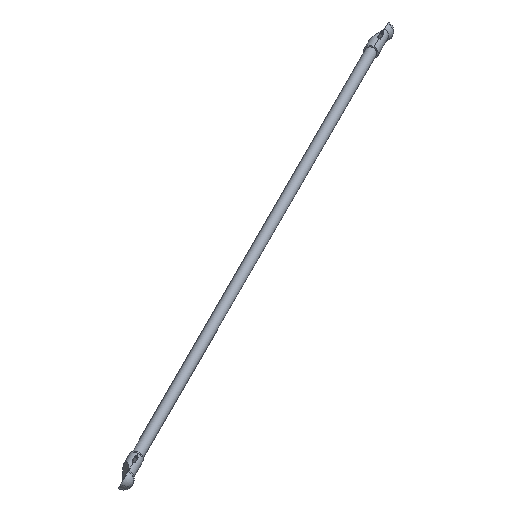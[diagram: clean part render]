
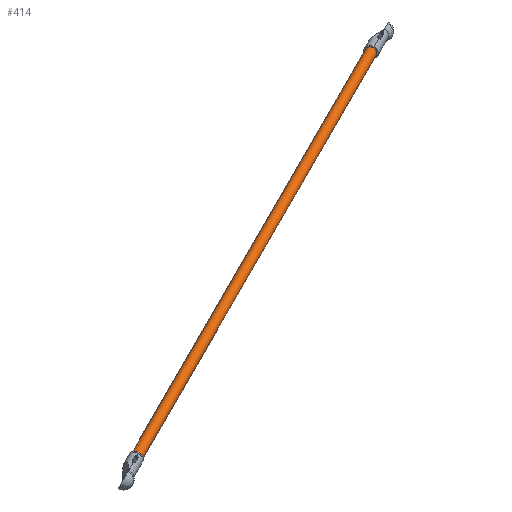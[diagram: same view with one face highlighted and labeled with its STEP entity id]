
A CAD part, top view. The second image highlights one B-rep face of the part: STEP entity #414.
In plain terms, the highlighted cylindrical face has radius 7 mm (diameter 14 mm), a partial arc.
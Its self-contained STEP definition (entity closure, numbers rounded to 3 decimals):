
#46 = CARTESIAN_POINT ( 'NONE',  ( 7.73, -88.621, -1167.889 ) ) ;
#55 = AXIS2_PLACEMENT_3D ( 'NONE', #46, #290, #463 ) ;
#60 = DIRECTION ( 'NONE',  ( 0.265, 0.46, -0.848 ) ) ;
#67 = CARTESIAN_POINT ( 'NONE',  ( 13.793, -92.121, -1167.89 ) ) ;
#99 = EDGE_CURVE ( 'NONE', #1536, #870, #743, .T. ) ;
#101 = VERTEX_POINT ( 'NONE', #263 ) ;
#197 = LINE ( 'NONE', #1016, #807 ) ;
#243 = ORIENTED_EDGE ( 'NONE', *, *, #589, .T. ) ;
#248 = DIRECTION ( 'NONE',  ( -0.265, -0.46, 0.848 ) ) ;
#263 = CARTESIAN_POINT ( 'NONE',  ( 1.668, -85.121, -1167.889 ) ) ;
#290 = DIRECTION ( 'NONE',  ( -0.265, -0.46, 0.848 ) ) ;
#322 = CARTESIAN_POINT ( 'NONE',  ( -251.73, -552.187, -319.457 ) ) ;
#378 = VECTOR ( 'NONE', #544, 1000. ) ;
#414 = ADVANCED_FACE ( 'NONE', ( #676 ), #1227, .T. ) ;
#415 = CARTESIAN_POINT ( 'NONE',  ( -257.792, -548.687, -319.457 ) ) ;
#457 = EDGE_CURVE ( 'NONE', #870, #101, #1487, .T. ) ;
#463 = DIRECTION ( 'NONE',  ( -0.866, 0.5, 0. ) ) ;
#544 = DIRECTION ( 'NONE',  ( 0.265, 0.46, -0.848 ) ) ;
#558 = CARTESIAN_POINT ( 'NONE',  ( -268.894, -553.92, -303.352 ) ) ;
#589 = EDGE_CURVE ( 'NONE', #1536, #844, #197, .T. ) ;
#676 = FACE_OUTER_BOUND ( 'NONE', #895, .T. ) ;
#709 = DIRECTION ( 'NONE',  ( 0.265, 0.46, -0.848 ) ) ;
#719 = ORIENTED_EDGE ( 'NONE', *, *, #1525, .T. ) ;
#743 = CIRCLE ( 'NONE', #1416, 7. ) ;
#784 = DIRECTION ( 'NONE',  ( -0.424, -0.734, -0.531 ) ) ;
#807 = VECTOR ( 'NONE', #60, 1000. ) ;
#844 = VERTEX_POINT ( 'NONE', #67 ) ;
#870 = VERTEX_POINT ( 'NONE', #1239 ) ;
#895 = EDGE_LOOP ( 'NONE', ( #1320, #243, #719, #1236 ) ) ;
#1016 = CARTESIAN_POINT ( 'NONE',  ( -256.77, -560.92, -303.353 ) ) ;
#1227 = CYLINDRICAL_SURFACE ( 'NONE', #1673, 7. ) ;
#1236 = ORIENTED_EDGE ( 'NONE', *, *, #457, .F. ) ;
#1239 = CARTESIAN_POINT ( 'NONE',  ( -263.854, -545.187, -319.456 ) ) ;
#1320 = ORIENTED_EDGE ( 'NONE', *, *, #99, .F. ) ;
#1356 = CARTESIAN_POINT ( 'NONE',  ( -262.832, -557.42, -303.352 ) ) ;
#1408 = CIRCLE ( 'NONE', #55, 7. ) ;
#1416 = AXIS2_PLACEMENT_3D ( 'NONE', #415, #248, #784 ) ;
#1487 = LINE ( 'NONE', #558, #378 ) ;
#1525 = EDGE_CURVE ( 'NONE', #844, #101, #1408, .T. ) ;
#1536 = VERTEX_POINT ( 'NONE', #322 ) ;
#1624 = DIRECTION ( 'NONE',  ( -0.866, 0.5, 0. ) ) ;
#1673 = AXIS2_PLACEMENT_3D ( 'NONE', #1356, #709, #1624 ) ;
